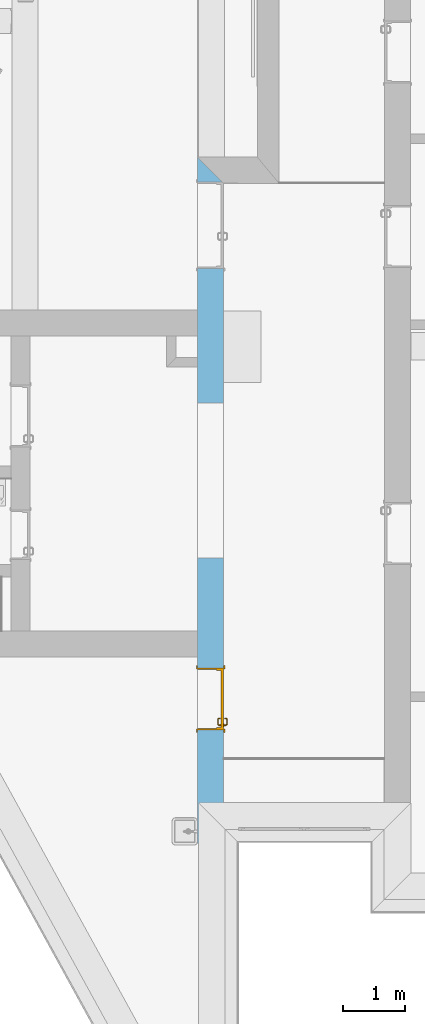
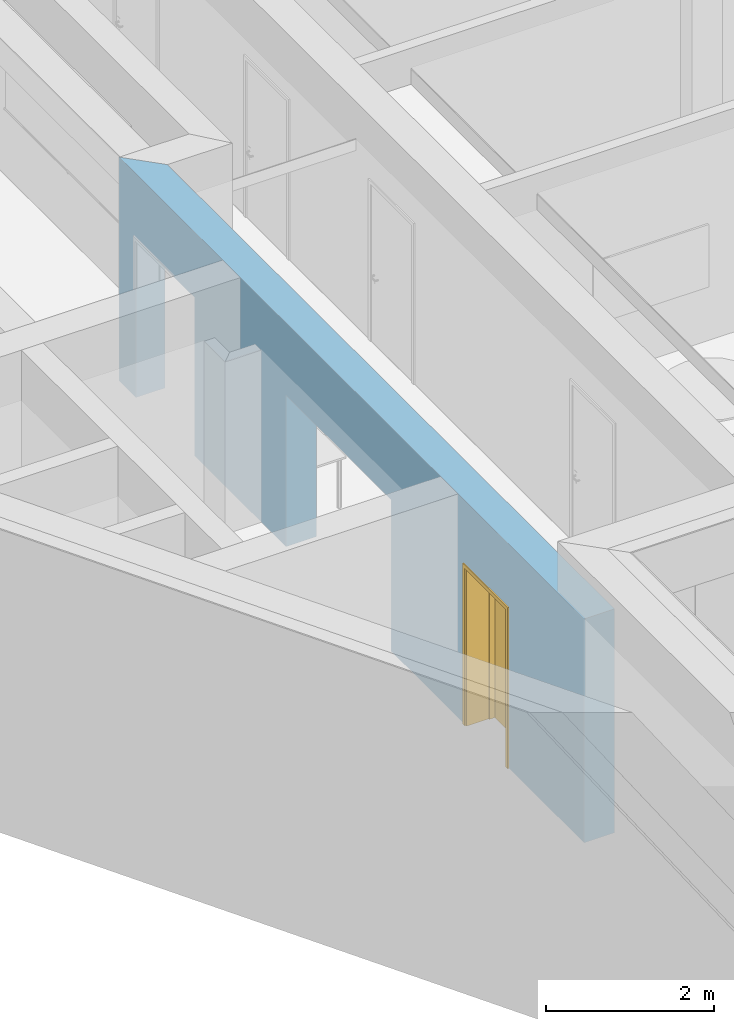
# One storey, part 49 of 194: 1 door, 3 openings, plus 1 element that does not belong to this part.
"""IFC2X3 building model written with IfcOpenShell, lengths in millimetres."""

from ifc_helpers import new_model, entity, si_unit, converted_unit, derived_unit, money_unit, direction, frame, origin_with_axes, origin_2d_with_axis, place, context, subcontext, project, spatial, polyline, rectangle, outline, extrude, open_shell, faceted_brep, surface_model, material, layer, layer_set, layer_usage, type_object, element, fill, save


model = new_model("IFC2X3")

# Units and contexts
model_context = context("Model", 3, precision=1e-05, world=origin_with_axes(), true_north=direction((0.0, 1.0)))
body_context = subcontext(model_context, "Body", "Model", "MODEL_VIEW")
ifc_project = project(units=[si_unit("LENGTHUNIT", "METRE", prefix="MILLI"), si_unit("AREAUNIT", "SQUARE_METRE"), si_unit("VOLUMEUNIT", "CUBIC_METRE"), converted_unit("PLANEANGLEUNIT", "DEGREE", entity("IfcPlaneAngleMeasure", 0.0174532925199), si_unit("PLANEANGLEUNIT", "RADIAN"), dimensions=[0, 0, 0, 0, 0, 0, 0]), si_unit("SOLIDANGLEUNIT", "STERADIAN"), money_unit("EUR"), converted_unit("TIMEUNIT", "Year", entity("IfcTimeMeasure", 31556926.0), si_unit("TIMEUNIT", "SECOND"), dimensions=[0, 0, 1, 0, 0, 0, 0]), si_unit("MASSUNIT", "GRAM", prefix="KILO"), si_unit("THERMODYNAMICTEMPERATUREUNIT", "DEGREE_CELSIUS"), si_unit("LUMINOUSINTENSITYUNIT", "LUMEN"), si_unit("ENERGYUNIT", "JOULE", prefix="MEGA"), derived_unit("THERMALCONDUCTANCEUNIT", [(si_unit("POWERUNIT", "WATT"), 1), (si_unit("LENGTHUNIT", "METRE"), -1), (si_unit("THERMODYNAMICTEMPERATUREUNIT", "KELVIN"), -1)]), derived_unit("SPECIFICHEATCAPACITYUNIT", [(si_unit("ENERGYUNIT", "JOULE"), 1), (si_unit("MASSUNIT", "GRAM", prefix="KILO"), -1), (si_unit("THERMODYNAMICTEMPERATUREUNIT", "KELVIN"), -1)]), derived_unit("MASSDENSITYUNIT", [(si_unit("MASSUNIT", "GRAM", prefix="KILO"), 1), (si_unit("VOLUMEUNIT", "CUBIC_METRE"), -1)])], contexts=[model_context])

# Site, building, storey
site_placement = place(None, origin_with_axes())
site = spatial("IfcSite", under=ifc_project, at=site_placement, Name="Site", CompositionType="ELEMENT")
building_placement = place(site_placement, origin_with_axes())
building = spatial("IfcBuilding", under=site, at=building_placement, Name="Building", CompositionType="ELEMENT")
storey_placement = place(building_placement, frame((0.0, 0.0, 3000.0), z_axis=(0.0, 0.0, 1.0), x_axis=(1.0, 0.0, 0.0)))
storey = spatial("IfcBuildingStorey", under=building, at=storey_placement, Name="2 KORRUS", CompositionType="ELEMENT", Elevation=3000.0)

# Wall, openings, door
ifc_material = material(Name="Kivi -Ol.Olev Konstruktsioon")
ifc_layer = layer(ifc_material, 420.0, ventilated="UNKNOWN")
ifc_layer_set = layer_set([ifc_layer], Name="ol.olev ss 420")
ifc_layer_usage = layer_usage(ifc_layer_set, "AXIS2", "POSITIVE", 0.0)
wall_type = type_object("IfcWallType", Name="SW - 023", PredefinedType="NOTDEFINED")
wall_placement = place(storey_placement, frame((37144.8833089, 5307.76650233, 0.0), z_axis=(0.0, 0.0, 1.0), x_axis=(0.0, 1.0, 0.0)))
wall = element("IfcWallStandardCase", 1, at=wall_placement, inside=storey, type_object=wall_type, material=ifc_layer_usage, Name="ol.olev ss 420", context=body_context, shape_type="SweptSolid", body=[
    extrude(outline(polyline([(0.0, 0.0), (10639.2321856, 0.0), (11059.9335517, 420.0), (0.0, 420.0), (0.0, 0.0)])), origin_with_axes(), (0.0, 0.0, 1.0), 3250.0),
])
opening_1_placement = place(wall_placement, frame((2319.67010377, 0.0, 0.0), z_axis=(0.0, 0.0, 1.0), x_axis=(1.0, 0.0, 0.0)))
opening_1 = element("IfcOpeningElement", 2, at=opening_1_placement, cuts=wall, Name="Siseuks * Door 22", context=body_context, shape_type="SweptSolid", body=[
    extrude(rectangle(XDim=1000.0, YDim=2300.0, at=origin_2d_with_axis()), frame((0.0, 420.0, 1150.0), z_axis=(0.0, 1.0, 0.0), x_axis=(1.0, 0.0, 0.0)), (0.0, 0.0, -1.0), 1260.0),
    extrude(rectangle(XDim=1074.0, YDim=2337.0, at=origin_2d_with_axis()), frame((0.0, 420.0, 1168.5), z_axis=(0.0, 1.0, 0.0), x_axis=(1.0, 0.0, 0.0)), (0.0, 0.0, 1.0), 420.0),
    extrude(rectangle(XDim=1074.0, YDim=2337.0, at=origin_2d_with_axis()), frame((0.0, 0.0, 1168.5), z_axis=(0.0, -1.0, 0.0), x_axis=(1.0, 0.0, 0.0)), (0.0, 0.0, 1.0), 420.0),
])
opening_2_placement = place(wall_placement, frame((9960.45850572, 0.0, 0.0), z_axis=(0.0, 0.0, 1.0), x_axis=(1.0, 0.0, 0.0)))
element("IfcOpeningElement", 3, at=opening_2_placement, cuts=wall, Name="Saali uks * Double Door 22", context=body_context, shape_type="SweptSolid", body=[
    extrude(rectangle(XDim=1400.0, YDim=2300.0, at=origin_2d_with_axis()), frame((0.0, 420.0, 1150.0), z_axis=(0.0, -1.0, 0.0), x_axis=(-1.0, 0.0, 0.0)), (0.0, 0.0, 1.0), 1260.0),
    extrude(rectangle(XDim=1474.0, YDim=2337.0, at=origin_2d_with_axis()), frame((0.0, 420.0, 1168.5), z_axis=(0.0, -1.0, 0.0), x_axis=(-1.0, 0.0, 0.0)), (0.0, 0.0, -1.0), 420.0),
    extrude(rectangle(XDim=1474.0, YDim=2337.0, at=origin_2d_with_axis()), frame((0.0, 0.0, 1168.5), z_axis=(0.0, 1.0, 0.0), x_axis=(-1.0, 0.0, 0.0)), (0.0, 0.0, -1.0), 420.0),
])
opening_3_placement = place(wall_placement, frame((5840.80387855, 0.0, 0.0), z_axis=(0.0, 0.0, 1.0), x_axis=(1.0, 0.0, 0.0)))
element("IfcOpeningElement", 4, at=opening_3_placement, cuts=wall, Name="Background;  Objekti nimi: Simple Door Opening", context=body_context, shape_type="SweptSolid", body=[
    extrude(rectangle(XDim=2380.0, YDim=2140.0, at=origin_2d_with_axis()), frame((0.0, 0.0, 1070.0), z_axis=(0.0, 1.0, 0.0), x_axis=(1.0, 0.0, 0.0)), (0.0, 0.0, -1.0), 420.0),
    extrude(rectangle(XDim=2500.0, YDim=2200.0, at=origin_2d_with_axis()), frame((0.0, 0.0, 1100.0), z_axis=(0.0, -1.0, 0.0), x_axis=(1.0, 0.0, 0.0)), (0.0, 0.0, -1.0), 420.0),
])
door_style = type_object("IfcDoorStyle", Name="SU-C210   1\xa0000×2\xa0300", ConstructionType="NOTDEFINED", OperationType="SINGLE_SWING_LEFT", ParameterTakesPrecedence=False, Sizeable=False)
door_placement = place(opening_1_placement, frame((500.0, 0.0, 0.0), z_axis=(0.0, 0.0, 1.0), x_axis=(-1.0, 0.0, 0.0)))
door = element("IfcDoor", 5, at=door_placement, inside=storey, type_object=door_style, Name="Siseuks * Door 22", OverallHeight=2300.0, OverallWidth=1000.0, context=body_context, shape_type="SurfaceModel", body=[
    faceted_brep([(1000.0, -115.0, 0.0), (1000.0, -420.0, 0.0), (975.0, -420.0, 0.0), (975.0, -115.0, 0.0), (1000.0, -115.0, 2300.0), (1000.0, -420.0, 2300.0), (975.0, -420.0, 2275.0), (975.0, -115.0, 2275.0)], [[[0, 1, 2, 3]], [[4, 5, 1, 0]], [[1, 5, 6, 2]], [[3, 2, 6, 7]], [[0, 3, 7, 4]], [[7, 6, 5, 4]]]),
    faceted_brep([(0.0, -115.0, 2300.0), (0.0, -420.0, 2300.0), (24.9999999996, -420.0, 2275.0), (24.9999999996, -115.0, 2275.0), (0.0, -115.0, 0.0), (0.0, -420.0, 0.0), (24.9999999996, -420.0, 0.0), (24.9999999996, -115.0, 0.0)], [[[0, 1, 2, 3]], [[4, 5, 1, 0]], [[1, 5, 6, 2]], [[3, 2, 6, 7]], [[0, 3, 7, 4]], [[7, 6, 5, 4]]]),
    faceted_brep([(975.0, -115.0, 2275.0), (975.0, -420.0, 2275.0), (24.9999999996, -420.0, 2275.0), (24.9999999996, -115.0, 2275.0), (1000.0, -115.0, 2300.0), (1000.0, -420.0, 2300.0), (0.0, -420.0, 2300.0), (0.0, -115.0, 2300.0)], [[[0, 1, 2, 3]], [[4, 5, 1, 0]], [[1, 5, 6, 2]], [[3, 2, 6, 7]], [[0, 3, 7, 4]], [[7, 6, 5, 4]]]),
    faceted_brep([(1037.0, -439.0, 0.0), (987.0, -439.0, 0.0), (987.0, -420.0, 0.0), (1037.0, -420.0, 0.0), (1037.0, -439.0, 2337.0), (987.0, -439.0, 2287.0), (987.0, -420.0, 2287.0), (1037.0, -420.0, 2337.0)], [[[0, 1, 2, 3]], [[0, 4, 5, 1]], [[1, 5, 6, 2]], [[3, 2, 6, 7]], [[4, 0, 3, 7]], [[5, 4, 7, 6]]]),
    faceted_brep([(-37.0000000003, -439.0, 2337.0), (12.9999999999, -439.0, 2287.0), (12.9999999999, -420.0, 2287.0), (-37.0000000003, -420.0, 2337.0), (-37.0000000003, -439.0, 0.0), (12.9999999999, -439.0, 0.0), (12.9999999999, -420.0, 0.0), (-37.0000000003, -420.0, 0.0)], [[[0, 1, 2, 3]], [[0, 4, 5, 1]], [[1, 5, 6, 2]], [[3, 2, 6, 7]], [[4, 0, 3, 7]], [[5, 4, 7, 6]]]),
    faceted_brep([(1037.0, -439.0, 2337.0), (987.0, -439.0, 2287.0), (987.0, -420.0, 2287.0), (1037.0, -420.0, 2337.0), (-37.0000000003, -439.0, 2337.0), (12.9999999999, -439.0, 2287.0), (12.9999999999, -420.0, 2287.0), (-37.0000000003, -420.0, 2337.0)], [[[0, 1, 2, 3]], [[0, 4, 5, 1]], [[1, 5, 6, 2]], [[3, 2, 6, 7]], [[4, 0, 3, 7]], [[5, 4, 7, 6]]]),
    faceted_brep([(1037.0, 19.0, 0.0), (1037.0, 0.0, 0.0), (987.0, 0.0, 0.0), (987.0, 19.0, 0.0), (1037.0, 19.0, 2337.0), (1037.0, 0.0, 2337.0), (987.0, 0.0, 2287.0), (987.0, 19.0, 2287.0)], [[[0, 1, 2, 3]], [[4, 5, 1, 0]], [[1, 5, 6, 2]], [[3, 2, 6, 7]], [[0, 3, 7, 4]], [[7, 6, 5, 4]]]),
    faceted_brep([(-37.0000000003, 19.0, 2337.0), (-37.0000000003, 0.0, 2337.0), (12.9999999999, 0.0, 2287.0), (12.9999999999, 19.0, 2287.0), (-37.0000000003, 19.0, 0.0), (-37.0000000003, 0.0, 0.0), (12.9999999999, 0.0, 0.0), (12.9999999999, 19.0, 0.0)], [[[0, 1, 2, 3]], [[4, 5, 1, 0]], [[1, 5, 6, 2]], [[3, 2, 6, 7]], [[0, 3, 7, 4]], [[7, 6, 5, 4]]]),
    faceted_brep([(1037.0, 19.0, 2337.0), (1037.0, 0.0, 2337.0), (987.0, 0.0, 2287.0), (987.0, 19.0, 2287.0), (-37.0000000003, 19.0, 2337.0), (-37.0000000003, 0.0, 2337.0), (12.9999999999, 0.0, 2287.0), (12.9999999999, 19.0, 2287.0)], [[[0, 1, 2, 3]], [[4, 5, 1, 0]], [[1, 5, 6, 2]], [[3, 2, 6, 7]], [[0, 3, 7, 4]], [[7, 6, 5, 4]]]),
    faceted_brep([(960.0, -40.0, 0.0), (960.0, -115.0, 0.0), (960.0, -115.0, 2260.0), (960.0, -40.0, 2260.0), (972.0, -40.0, 0.0), (972.0, 0.0, 0.0), (1000.0, 0.0, 0.0), (1000.0, -115.0, 0.0), (1000.0, -115.0, 2260.0), (972.0, -40.0, 2260.0), (1000.0, 0.0, 2260.0), (972.0, 0.0, 2260.0)], [[[0, 1, 2, 3]], [[4, 5, 6, 7, 1, 0]], [[1, 7, 8, 2]], [[9, 3, 2, 8, 10, 11]], [[9, 4, 0, 3]], [[11, 5, 4, 9]], [[11, 10, 6, 5]], [[6, 10, 8, 7]]]),
    faceted_brep([(28.0000000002, -40.0, 2260.0), (28.0000000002, 0.0, 2260.0), (0.0, 0.0, 2260.0), (0.0, -115.0, 2260.0), (40.0, -115.0, 2260.0), (40.0, -40.0, 2260.0), (28.0000000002, -40.0, 0.0), (28.0000000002, 0.0, 0.0), (0.0, 0.0, 0.0), (0.0, -115.0, 0.0), (40.0, -115.0, 0.0), (40.0, -40.0, 0.0)], [[[0, 1, 2, 3, 4, 5]], [[0, 6, 7, 1]], [[7, 8, 2, 1]], [[2, 8, 9, 3]], [[3, 9, 10, 4]], [[5, 4, 10, 11]], [[5, 11, 6, 0]], [[6, 11, 10, 9, 8, 7]]]),
    faceted_brep([(972.0, 0.0, 2272.0), (28.0000000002, 0.0, 2272.0), (28.0000000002, 0.0, 2260.0), (0.0, 0.0, 2260.0), (0.0, 0.0, 2300.0), (1000.0, 0.0, 2300.0), (1000.0, 0.0, 2260.0), (972.0, 0.0, 2260.0), (972.0, -40.0, 2272.0), (28.0000000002, -40.0, 2272.0), (28.0000000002, -40.0, 2260.0), (40.0, -40.0, 2260.0), (40.0, -115.0, 2260.0), (0.0, -115.0, 2260.0), (0.0, -115.0, 2300.0), (1000.0, -115.0, 2300.0), (1000.0, -115.0, 2260.0), (972.0, -40.0, 2260.0), (960.0, -115.0, 2260.0), (960.0, -40.0, 2260.0)], [[[0, 1, 2, 3, 4, 5, 6, 7]], [[0, 8, 9, 1]], [[1, 9, 10, 2]], [[10, 11, 12, 13, 3, 2]], [[4, 3, 13, 14]], [[5, 4, 14, 15]], [[6, 5, 15, 16]], [[17, 7, 6, 16, 18, 19]], [[7, 17, 8, 0]], [[10, 9, 8, 17, 19, 11]], [[19, 18, 12, 11]], [[12, 18, 16, 15, 14, 13]]]),
    faceted_brep([(950.5, -40.0, 1060.0), (893.5, -40.0, 1060.0), (893.5, -43.0, 1060.0), (950.5, -43.0, 1060.0), (950.5, -40.0, 870.0), (893.5, -40.0, 870.0), (893.5, -43.0, 870.0), (950.5, -43.0, 870.0)], [[[0, 1, 2, 3]], [[0, 4, 5, 1]], [[1, 5, 6, 2]], [[3, 2, 6, 7]], [[4, 0, 3, 7]], [[5, 4, 7, 6]]]),
    surface_model("IfcShellBasedSurfaceModel", [(912.0, -53.0, 1000.0), (914.928932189, -53.0, 992.928932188), (914.928932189, -72.303560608, 992.928932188), (912.0, -72.0150859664, 1000.0), (922.0, -53.0, 990.0), (922.0, -73.0, 990.0), (913.816790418, -77.8946748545, 992.928932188), (911.057796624, -76.7518622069, 1000.0), (914.928932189, -53.0, 1007.07106781), (914.928932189, -72.303560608, 1007.07106781), (929.071067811, -53.0, 992.928932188), (929.071067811, -73.6964393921, 992.928932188), (920.47759065, -80.6536686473, 990.0), (911.044179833, -82.0441798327, 992.928932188), (908.932537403, -79.9325374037, 1000.0), (913.816790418, -77.8946748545, 1007.07106781), (922.0, -53.0, 1010.0), (922.0, -73.0, 1010.0), (932.0, -53.0, 1000.0), (932.0, -73.9849140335, 1000.0), (927.138390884, -83.4126624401, 992.928932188), (916.142135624, -87.1421356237, 990.0), (906.894674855, -84.8167904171, 992.928932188), (905.751862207, -82.0577966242, 1000.0), (911.044179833, -82.0441798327, 1007.07106781), (920.47759065, -80.6536686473, 1010.0), (929.071067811, -53.0, 1007.07106781), (929.071067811, -73.6964393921, 1007.07106781), (929.897384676, -84.5554750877, 1000.0), (921.240091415, -92.2400914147, 992.928932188), (909.653668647, -91.4775906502, 990.0), (901.303560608, -85.9289321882, 992.928932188), (901.015085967, -83.0, 1000.0), (906.894674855, -84.8167904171, 1007.07106781), (916.142135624, -87.1421356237, 1010.0), (927.138390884, -83.4126624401, 1007.07106781), (923.351733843, -94.3517338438, 1000.0), (912.41266244, -98.1383908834, 992.928932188), (902.0, -93.0, 990.0), (832.696439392, -85.9289321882, 992.928932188), (832.984914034, -83.0, 1000.0), (901.303560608, -85.9289321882, 1007.07106781), (909.653668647, -91.4775906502, 1010.0), (921.240091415, -92.2400914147, 1007.07106781), (913.555475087, -100.897384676, 1000.0), (902.696439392, -100.071067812, 992.928932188), (832.0, -93.0, 990.0), (827.105325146, -84.8167904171, 992.928932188), (828.248137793, -82.0577966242, 1000.0), (832.696439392, -85.9289321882, 1007.07106781), (902.0, -93.0, 1010.0), (912.41266244, -98.1383908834, 1007.07106781), (902.984914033, -103.0, 1000.0), (831.303560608, -100.071067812, 992.928932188), (824.346331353, -91.4775906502, 990.0), (822.955820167, -82.0441798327, 992.928932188), (825.067462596, -79.9325374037, 1000.0), (827.105325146, -84.8167904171, 1007.07106781), (832.0, -93.0, 1010.0), (902.696439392, -100.071067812, 1007.07106781), (831.015085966, -103.0, 1000.0), (821.58733756, -98.1383908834, 992.928932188), (817.857864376, -87.1421356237, 990.0), (820.183209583, -77.8946748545, 992.928932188), (822.942203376, -76.7518622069, 1000.0), (822.955820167, -82.0441798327, 1007.07106781), (824.346331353, -91.4775906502, 1010.0), (831.303560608, -100.071067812, 1007.07106781), (820.444524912, -100.897384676, 1000.0), (812.759908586, -92.2400914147, 992.928932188), (813.522409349, -80.6536686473, 990.0), (819.071067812, -72.303560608, 992.928932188), (822.0, -72.0150859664, 1000.0), (820.183209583, -77.8946748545, 1007.07106781), (817.857864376, -87.1421356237, 1010.0), (821.58733756, -98.1383908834, 1007.07106781), (810.648266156, -94.3517338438, 1000.0), (806.861609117, -83.4126624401, 992.928932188), (812.0, -73.0, 990.0), (819.071067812, -53.0, 992.928932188), (822.0, -53.0, 1000.0), (819.071067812, -72.303560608, 1007.07106781), (813.522409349, -80.6536686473, 1010.0), (812.759908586, -92.2400914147, 1007.07106781), (804.102615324, -84.5554750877, 1000.0), (804.928932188, -73.6964393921, 992.928932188), (812.0, -53.0, 990.0), (804.928932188, -53.0, 992.928932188), (802.0, -53.0, 1000.0), (804.928932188, -53.0, 1007.07106781), (812.0, -53.0, 1010.0), (819.071067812, -53.0, 1007.07106781), (812.0, -73.0, 1010.0), (806.861609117, -83.4126624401, 1007.07106781), (802.0, -73.9849140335, 1000.0), (804.928932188, -73.6964393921, 1007.07106781)], [open_shell([[[0, 1, 2, 3]], [[1, 4, 5, 2]], [[3, 2, 6, 7]], [[8, 0, 3, 9]], [[4, 10, 11, 5]], [[2, 5, 12, 6]], [[7, 6, 13, 14]], [[9, 3, 7, 15]], [[16, 8, 9, 17]], [[10, 18, 19, 11]], [[5, 11, 20, 12]], [[6, 12, 21, 13]], [[14, 13, 22, 23]], [[15, 7, 14, 24]], [[17, 9, 15, 25]], [[26, 16, 17, 27]], [[18, 26, 27, 19]], [[11, 19, 28, 20]], [[12, 20, 29, 21]], [[13, 21, 30, 22]], [[23, 22, 31, 32]], [[24, 14, 23, 33]], [[25, 15, 24, 34]], [[27, 17, 25, 35]], [[19, 27, 35, 28]], [[20, 28, 36, 29]], [[21, 29, 37, 30]], [[22, 30, 38, 31]], [[32, 31, 39, 40]], [[33, 23, 32, 41]], [[34, 24, 33, 42]], [[35, 25, 34, 43]], [[28, 35, 43, 36]], [[29, 36, 44, 37]], [[30, 37, 45, 38]], [[31, 38, 46, 39]], [[40, 39, 47, 48]], [[41, 32, 40, 49]], [[42, 33, 41, 50]], [[43, 34, 42, 51]], [[36, 43, 51, 44]], [[37, 44, 52, 45]], [[38, 45, 53, 46]], [[39, 46, 54, 47]], [[48, 47, 55, 56]], [[49, 40, 48, 57]], [[50, 41, 49, 58]], [[51, 42, 50, 59]], [[44, 51, 59, 52]], [[45, 52, 60, 53]], [[46, 53, 61, 54]], [[47, 54, 62, 55]], [[56, 55, 63, 64]], [[57, 48, 56, 65]], [[58, 49, 57, 66]], [[59, 50, 58, 67]], [[52, 59, 67, 60]], [[53, 60, 68, 61]], [[54, 61, 69, 62]], [[55, 62, 70, 63]], [[64, 63, 71, 72]], [[65, 56, 64, 73]], [[66, 57, 65, 74]], [[67, 58, 66, 75]], [[60, 67, 75, 68]], [[61, 68, 76, 69]], [[62, 69, 77, 70]], [[63, 70, 78, 71]], [[72, 71, 79, 80]], [[73, 64, 72, 81]], [[74, 65, 73, 82]], [[75, 66, 74, 83]], [[68, 75, 83, 76]], [[69, 76, 84, 77]], [[70, 77, 85, 78]], [[71, 78, 86, 79]], [[80, 79, 86, 87, 88, 89, 90, 91]], [[81, 72, 80, 91]], [[82, 73, 81, 92]], [[83, 74, 82, 93]], [[76, 83, 93, 84]], [[77, 84, 94, 85]], [[78, 85, 87, 86]], [[85, 94, 88, 87]], [[94, 95, 89, 88]], [[95, 92, 90, 89]], [[92, 81, 91, 90]], [[93, 82, 92, 95]], [[84, 93, 95, 94]]])]),
    faceted_brep([(911.607695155, -53.0, 994.0), (910.0, -53.0, 1000.0), (909.0, -43.0, 1000.0), (910.741669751, -43.0, 993.5), (916.0, -53.0, 989.607695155), (922.0, -53.0, 988.0), (928.0, -53.0, 989.607695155), (932.392304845, -53.0, 994.0), (934.0, -53.0, 1000.0), (932.392304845, -53.0, 1006.0), (928.0, -53.0, 1010.39230485), (922.0, -53.0, 1012.0), (916.0, -53.0, 1010.39230485), (911.607695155, -53.0, 1006.0), (910.741669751, -43.0, 1006.5), (915.5, -43.0, 1011.25833025), (922.0, -43.0, 1013.0), (928.5, -43.0, 1011.25833025), (933.258330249, -43.0, 1006.5), (935.0, -43.0, 1000.0), (933.258330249, -43.0, 993.5), (928.5, -43.0, 988.741669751), (922.0, -43.0, 987.0), (915.5, -43.0, 988.741669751)], [[[0, 1, 2, 3]], [[1, 0, 4, 5, 6, 7, 8, 9, 10, 11, 12, 13]], [[1, 13, 14, 2]], [[2, 14, 15, 16, 17, 18, 19, 20, 21, 22, 23, 3]], [[4, 0, 3, 23]], [[5, 4, 23, 22]], [[6, 5, 22, 21]], [[7, 6, 21, 20]], [[8, 7, 20, 19]], [[9, 8, 19, 18]], [[10, 9, 18, 17]], [[11, 10, 17, 16]], [[12, 11, 16, 15]], [[13, 12, 15, 14]]]),
    faceted_brep([(904.679491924, -47.0, 895.0), (902.0, -47.0, 905.0), (900.0, -43.0, 905.0), (902.947441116, -43.0, 894.0), (912.0, -47.0, 887.679491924), (922.0, -47.0, 885.0), (932.0, -47.0, 887.679491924), (939.320508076, -47.0, 895.0), (942.0, -47.0, 905.0), (939.320508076, -47.0, 915.0), (932.0, -47.0, 922.320508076), (922.0, -47.0, 925.0), (912.0, -47.0, 922.320508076), (904.679491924, -47.0, 915.0), (902.947441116, -43.0, 916.0), (911.0, -43.0, 924.052558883), (922.0, -43.0, 927.0), (933.0, -43.0, 924.052558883), (941.052558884, -43.0, 916.0), (944.0, -43.0, 905.0), (941.052558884, -43.0, 894.0), (933.0, -43.0, 885.947441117), (922.0, -43.0, 883.0), (911.0, -43.0, 885.947441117)], [[[0, 1, 2, 3]], [[1, 0, 4, 5, 6, 7, 8, 9, 10, 11, 12, 13]], [[1, 13, 14, 2]], [[2, 14, 15, 16, 17, 18, 19, 20, 21, 22, 23, 3]], [[4, 0, 3, 23]], [[5, 4, 23, 22]], [[6, 5, 22, 21]], [[7, 6, 21, 20]], [[8, 7, 20, 19]], [[9, 8, 19, 18]], [[10, 9, 18, 17]], [[11, 10, 17, 16]], [[12, 11, 16, 15]], [[13, 12, 15, 14]]]),
    faceted_brep([(917.050252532, -49.0, 909.050252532), (915.0, -49.0, 914.0), (914.0, -47.0, 914.0), (916.343145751, -47.0, 908.343145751), (922.0, -49.0, 907.0), (926.949747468, -49.0, 909.050252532), (929.0, -49.0, 914.0), (926.949747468, -49.0, 918.949747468), (922.0, -49.0, 921.0), (917.050252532, -49.0, 918.949747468), (916.343145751, -47.0, 919.656854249), (922.0, -47.0, 922.0), (927.656854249, -47.0, 919.656854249), (930.0, -47.0, 914.0), (927.656854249, -47.0, 908.343145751), (922.0, -47.0, 906.0)], [[[0, 1, 2, 3]], [[1, 0, 4, 5, 6, 7, 8, 9]], [[1, 9, 10, 2]], [[2, 10, 11, 12, 13, 14, 15, 3]], [[4, 0, 3, 15]], [[5, 4, 15, 14]], [[6, 5, 14, 13]], [[7, 6, 13, 12]], [[8, 7, 12, 11]], [[9, 8, 11, 10]]]),
    faceted_brep([(950.5, 0.0, 1060.0), (950.5, 3.00000000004, 1060.0), (893.5, 3.00000000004, 1060.0), (893.5, 0.0, 1060.0), (950.5, 0.0, 870.0), (950.5, 3.00000000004, 870.0), (893.5, 3.00000000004, 870.0), (893.5, 0.0, 870.0)], [[[0, 1, 2, 3]], [[4, 5, 1, 0]], [[1, 5, 6, 2]], [[3, 2, 6, 7]], [[0, 3, 7, 4]], [[7, 6, 5, 4]]]),
    surface_model("IfcShellBasedSurfaceModel", [(912.0, 13.0, 1000.0), (912.0, 32.0150859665, 1000.0), (914.928932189, 32.3035606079, 992.928932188), (914.928932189, 13.0, 992.928932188), (914.928932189, 13.0, 1007.07106781), (914.928932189, 32.3035606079, 1007.07106781), (911.057796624, 36.751862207, 1000.0), (913.816790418, 37.8946748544, 992.928932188), (922.0, 33.0, 990.0), (922.0, 13.0, 990.0), (922.0, 13.0, 1010.0), (922.0, 33.0, 1010.0), (913.816790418, 37.8946748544, 1007.07106781), (908.932537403, 39.9325374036, 1000.0), (911.044179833, 42.0441798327, 992.928932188), (920.47759065, 40.6536686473, 990.0), (929.071067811, 33.696439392, 992.928932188), (929.071067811, 13.0, 992.928932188), (929.071067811, 13.0, 1007.07106781), (929.071067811, 33.696439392, 1007.07106781), (920.47759065, 40.6536686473, 1010.0), (911.044179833, 42.0441798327, 1007.07106781), (905.751862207, 42.0577966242, 1000.0), (906.894674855, 44.816790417, 992.928932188), (916.142135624, 47.1421356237, 990.0), (927.138390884, 43.4126624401, 992.928932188), (932.0, 33.9849140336, 1000.0), (932.0, 13.0, 1000.0), (927.138390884, 43.4126624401, 1007.07106781), (916.142135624, 47.1421356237, 1010.0), (906.894674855, 44.816790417, 1007.07106781), (901.015085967, 43.0, 1000.0), (901.303560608, 45.9289321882, 992.928932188), (909.653668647, 51.4775906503, 990.0), (921.240091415, 52.2400914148, 992.928932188), (929.897384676, 44.5554750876, 1000.0), (921.240091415, 52.2400914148, 1007.07106781), (909.653668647, 51.4775906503, 1010.0), (901.303560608, 45.9289321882, 1007.07106781), (832.984914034, 43.0, 1000.0), (832.696439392, 45.9289321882, 992.928932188), (902.0, 53.0, 990.0), (912.41266244, 58.1383908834, 992.928932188), (923.351733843, 54.3517338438, 1000.0), (912.41266244, 58.1383908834, 1007.07106781), (902.0, 53.0, 1010.0), (832.696439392, 45.9289321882, 1007.07106781), (828.248137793, 42.0577966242, 1000.0), (827.105325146, 44.816790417, 992.928932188), (832.0, 53.0, 990.0), (902.696439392, 60.0710678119, 992.928932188), (913.555475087, 60.8973846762, 1000.0), (902.696439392, 60.0710678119, 1007.07106781), (832.0, 53.0, 1010.0), (827.105325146, 44.816790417, 1007.07106781), (825.067462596, 39.9325374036, 1000.0), (822.955820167, 42.0441798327, 992.928932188), (824.346331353, 51.4775906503, 990.0), (831.303560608, 60.0710678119, 992.928932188), (902.984914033, 63.0, 1000.0), (831.303560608, 60.0710678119, 1007.07106781), (824.346331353, 51.4775906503, 1010.0), (822.955820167, 42.0441798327, 1007.07106781), (822.942203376, 36.751862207, 1000.0), (820.183209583, 37.8946748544, 992.928932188), (817.857864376, 47.1421356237, 990.0), (821.58733756, 58.1383908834, 992.928932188), (831.015085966, 63.0, 1000.0), (821.58733756, 58.1383908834, 1007.07106781), (817.857864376, 47.1421356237, 1010.0), (820.183209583, 37.8946748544, 1007.07106781), (822.0, 32.0150859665, 1000.0), (819.071067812, 32.3035606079, 992.928932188), (813.522409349, 40.6536686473, 990.0), (812.759908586, 52.2400914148, 992.928932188), (820.444524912, 60.8973846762, 1000.0), (812.759908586, 52.2400914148, 1007.07106781), (813.522409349, 40.6536686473, 1010.0), (819.071067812, 32.3035606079, 1007.07106781), (822.0, 13.0, 1000.0), (819.071067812, 13.0, 992.928932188), (812.0, 33.0, 990.0), (806.861609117, 43.4126624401, 992.928932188), (810.648266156, 54.3517338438, 1000.0), (806.861609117, 43.4126624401, 1007.07106781), (812.0, 33.0, 1010.0), (819.071067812, 13.0, 1007.07106781), (812.0, 13.0, 1010.0), (804.928932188, 13.0, 1007.07106781), (802.0, 13.0, 1000.0), (804.928932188, 13.0, 992.928932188), (812.0, 13.0, 990.0), (804.928932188, 33.696439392, 992.928932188), (804.102615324, 44.5554750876, 1000.0), (804.928932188, 33.696439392, 1007.07106781), (802.0, 33.9849140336, 1000.0)], [open_shell([[[0, 1, 2, 3]], [[4, 5, 1, 0]], [[1, 6, 7, 2]], [[3, 2, 8, 9]], [[10, 11, 5, 4]], [[5, 12, 6, 1]], [[6, 13, 14, 7]], [[2, 7, 15, 8]], [[9, 8, 16, 17]], [[18, 19, 11, 10]], [[11, 20, 12, 5]], [[12, 21, 13, 6]], [[13, 22, 23, 14]], [[7, 14, 24, 15]], [[8, 15, 25, 16]], [[17, 16, 26, 27]], [[27, 26, 19, 18]], [[19, 28, 20, 11]], [[20, 29, 21, 12]], [[21, 30, 22, 13]], [[22, 31, 32, 23]], [[14, 23, 33, 24]], [[15, 24, 34, 25]], [[16, 25, 35, 26]], [[26, 35, 28, 19]], [[28, 36, 29, 20]], [[29, 37, 30, 21]], [[30, 38, 31, 22]], [[31, 39, 40, 32]], [[23, 32, 41, 33]], [[24, 33, 42, 34]], [[25, 34, 43, 35]], [[35, 43, 36, 28]], [[36, 44, 37, 29]], [[37, 45, 38, 30]], [[38, 46, 39, 31]], [[39, 47, 48, 40]], [[32, 40, 49, 41]], [[33, 41, 50, 42]], [[34, 42, 51, 43]], [[43, 51, 44, 36]], [[44, 52, 45, 37]], [[45, 53, 46, 38]], [[46, 54, 47, 39]], [[47, 55, 56, 48]], [[40, 48, 57, 49]], [[41, 49, 58, 50]], [[42, 50, 59, 51]], [[51, 59, 52, 44]], [[52, 60, 53, 45]], [[53, 61, 54, 46]], [[54, 62, 55, 47]], [[55, 63, 64, 56]], [[48, 56, 65, 57]], [[49, 57, 66, 58]], [[50, 58, 67, 59]], [[59, 67, 60, 52]], [[60, 68, 61, 53]], [[61, 69, 62, 54]], [[62, 70, 63, 55]], [[63, 71, 72, 64]], [[56, 64, 73, 65]], [[57, 65, 74, 66]], [[58, 66, 75, 67]], [[67, 75, 68, 60]], [[68, 76, 69, 61]], [[69, 77, 70, 62]], [[70, 78, 71, 63]], [[71, 79, 80, 72]], [[64, 72, 81, 73]], [[65, 73, 82, 74]], [[66, 74, 83, 75]], [[75, 83, 76, 68]], [[76, 84, 77, 69]], [[77, 85, 78, 70]], [[78, 86, 79, 71]], [[79, 86, 87, 88, 89, 90, 91, 80]], [[72, 80, 91, 81]], [[73, 81, 92, 82]], [[74, 82, 93, 83]], [[83, 93, 84, 76]], [[84, 94, 85, 77]], [[85, 87, 86, 78]], [[94, 88, 87, 85]], [[95, 89, 88, 94]], [[92, 90, 89, 95]], [[81, 91, 90, 92]], [[82, 92, 95, 93]], [[93, 95, 94, 84]]])]),
    faceted_brep([(911.607695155, 13.0, 994.0), (910.741669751, 3.00000000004, 993.5), (909.0, 3.00000000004, 1000.0), (910.0, 13.0, 1000.0), (916.0, 13.0, 989.607695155), (915.5, 3.00000000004, 988.741669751), (922.0, 3.00000000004, 987.0), (928.5, 3.00000000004, 988.741669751), (933.258330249, 3.00000000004, 993.5), (935.0, 3.00000000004, 1000.0), (933.258330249, 3.00000000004, 1006.5), (928.5, 3.00000000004, 1011.25833025), (922.0, 3.00000000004, 1013.0), (915.5, 3.00000000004, 1011.25833025), (910.741669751, 3.00000000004, 1006.5), (911.607695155, 13.0, 1006.0), (916.0, 13.0, 1010.39230485), (922.0, 13.0, 1012.0), (928.0, 13.0, 1010.39230485), (932.392304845, 13.0, 1006.0), (934.0, 13.0, 1000.0), (932.392304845, 13.0, 994.0), (928.0, 13.0, 989.607695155), (922.0, 13.0, 988.0)], [[[0, 1, 2, 3]], [[4, 5, 1, 0]], [[2, 1, 5, 6, 7, 8, 9, 10, 11, 12, 13, 14]], [[3, 2, 14, 15]], [[3, 15, 16, 17, 18, 19, 20, 21, 22, 23, 4, 0]], [[23, 6, 5, 4]], [[22, 7, 6, 23]], [[21, 8, 7, 22]], [[20, 9, 8, 21]], [[19, 10, 9, 20]], [[18, 11, 10, 19]], [[17, 12, 11, 18]], [[16, 13, 12, 17]], [[15, 14, 13, 16]]]),
    faceted_brep([(904.679491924, 6.99999999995, 895.0), (902.947441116, 3.00000000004, 894.0), (900.0, 3.00000000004, 905.0), (902.0, 6.99999999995, 905.0), (912.0, 6.99999999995, 887.679491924), (911.0, 3.00000000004, 885.947441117), (922.0, 3.00000000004, 883.0), (933.0, 3.00000000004, 885.947441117), (941.052558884, 3.00000000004, 894.0), (944.0, 3.00000000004, 905.0), (941.052558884, 3.00000000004, 916.0), (933.0, 3.00000000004, 924.052558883), (922.0, 3.00000000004, 927.0), (911.0, 3.00000000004, 924.052558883), (902.947441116, 3.00000000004, 916.0), (904.679491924, 6.99999999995, 915.0), (912.0, 6.99999999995, 922.320508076), (922.0, 6.99999999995, 925.0), (932.0, 6.99999999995, 922.320508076), (939.320508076, 6.99999999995, 915.0), (942.0, 6.99999999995, 905.0), (939.320508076, 6.99999999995, 895.0), (932.0, 6.99999999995, 887.679491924), (922.0, 6.99999999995, 885.0)], [[[0, 1, 2, 3]], [[4, 5, 1, 0]], [[2, 1, 5, 6, 7, 8, 9, 10, 11, 12, 13, 14]], [[3, 2, 14, 15]], [[3, 15, 16, 17, 18, 19, 20, 21, 22, 23, 4, 0]], [[23, 6, 5, 4]], [[22, 7, 6, 23]], [[21, 8, 7, 22]], [[20, 9, 8, 21]], [[19, 10, 9, 20]], [[18, 11, 10, 19]], [[17, 12, 11, 18]], [[16, 13, 12, 17]], [[15, 14, 13, 16]]]),
    faceted_brep([(917.050252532, 9.00000000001, 909.050252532), (916.343145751, 6.99999999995, 908.343145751), (914.0, 6.99999999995, 914.0), (915.0, 9.00000000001, 914.0), (922.0, 9.00000000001, 907.0), (922.0, 6.99999999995, 906.0), (927.656854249, 6.99999999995, 908.343145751), (930.0, 6.99999999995, 914.0), (927.656854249, 6.99999999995, 919.656854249), (922.0, 6.99999999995, 922.0), (916.343145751, 6.99999999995, 919.656854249), (917.050252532, 9.00000000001, 918.949747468), (922.0, 9.00000000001, 921.0), (926.949747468, 9.00000000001, 918.949747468), (929.0, 9.00000000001, 914.0), (926.949747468, 9.00000000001, 909.050252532)], [[[0, 1, 2, 3]], [[4, 5, 1, 0]], [[2, 1, 5, 6, 7, 8, 9, 10]], [[3, 2, 10, 11]], [[3, 11, 12, 13, 14, 15, 4, 0]], [[15, 6, 5, 4]], [[14, 7, 6, 15]], [[13, 8, 7, 14]], [[12, 9, 8, 13]], [[11, 10, 9, 12]]]),
    faceted_brep([(28.0000000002, 0.0, 0.0), (972.0, 0.0, 0.0), (972.0, -40.0, 0.0), (28.0000000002, -40.0, 0.0), (28.0000000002, 0.0, 2272.0), (972.0, 0.0, 2272.0), (972.0, -40.0, 2272.0), (28.0000000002, -40.0, 2272.0)], [[[0, 1, 2, 3]], [[0, 4, 5, 1]], [[1, 5, 6, 2]], [[3, 2, 6, 7]], [[4, 0, 3, 7]], [[5, 4, 7, 6]]]),
])
fill(opening_1, door)

save(model, "model.ifc")
